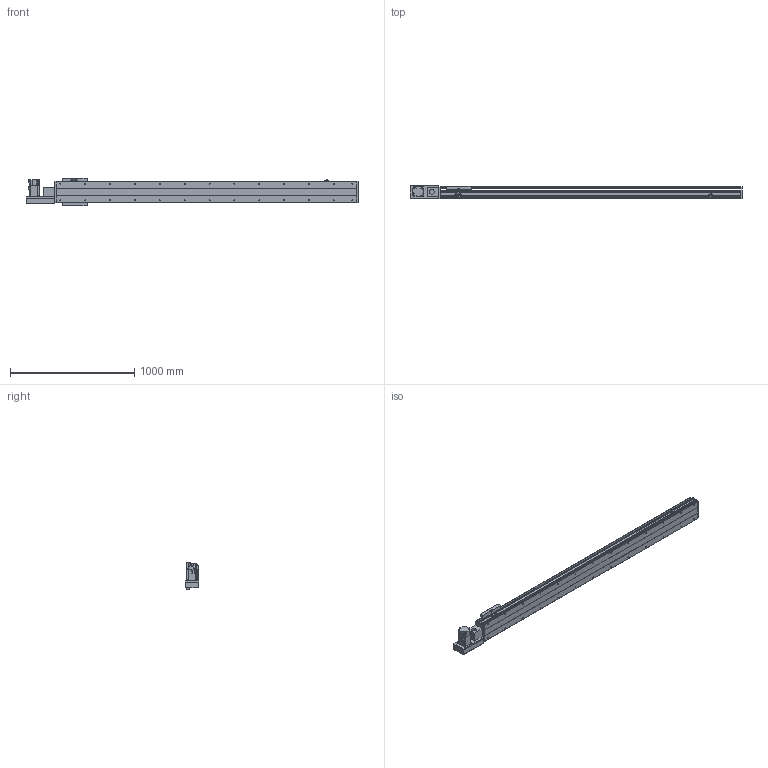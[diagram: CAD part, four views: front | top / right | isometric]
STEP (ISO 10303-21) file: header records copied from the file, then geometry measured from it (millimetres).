
FILE_DESCRIPTION(/* description */ ('STEP AP214'),/* implementation_level */ '2;1');
FILE_NAME(/* name */ 'PBS200-P40-S2050-L-T75-C1-N(0)',/* time_stamp */ '2022-06-11T07:50:09+02:00',/* author */ ('License CC BY-ND 4.0'),/* organization */ ('CADENAS'),/* preprocessor_version */ 'ST-DEVELOPER v18.102',/* originating_system */ 'PARTsolutions',/* authorisation */ ' ');
FILE_SCHEMA (('AUTOMOTIVE_DESIGN {1 0 10303 214 3 1 1}'));
Length unit declared in the file: millimetre
Products named in the file (7): PBS200-P40-S2050-L-T75-C1-N(0); PBS200_sensor; PBS200_plant; PBS200_sliser; T75-p1; PBS200T-L_motors; PBS200-S2050()_body
Assembly tree (8 placements, depth 2):
  PBS200-P40-S2050-L-T75-C1-N(0)
    PBS200_sensor  x3
    PBS200_plant
    PBS200_sliser
    T75-p1
    PBS200T-L_motors
    PBS200-S2050()_body
Bounding box: 2672 x 109 x 221 mm (x, y, z)
Volume: 17794055.1 mm3; surface area: 2853236.4 mm2
Topology: 8 solids, 8 shells, 950 faces, 2424 edges, 1578 vertices
Faces by surface type: plane 584, cylinder 308, cone 58
Full cylindrical faces by diameter (mm): 2.459 x6, 3.242 x4, 4.5 x6, 4.917 x4, 5 x6, 6 x7, 6.6 x8, 6.647 x30, 8 x6, 10 x4, 12 x8, 38 x2, 40 x1, 70 x1
Entity records: 25181 total; most frequent: DIRECTION 4447, CARTESIAN_POINT 4282, ORIENTED_EDGE 4042, EDGE_CURVE 2021, AXIS2_PLACEMENT_3D 1567, VERTEX_POINT 1402, LINE 1313, VECTOR 1313
